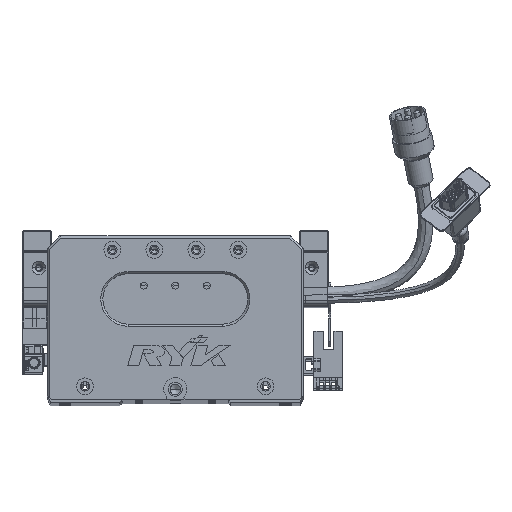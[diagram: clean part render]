
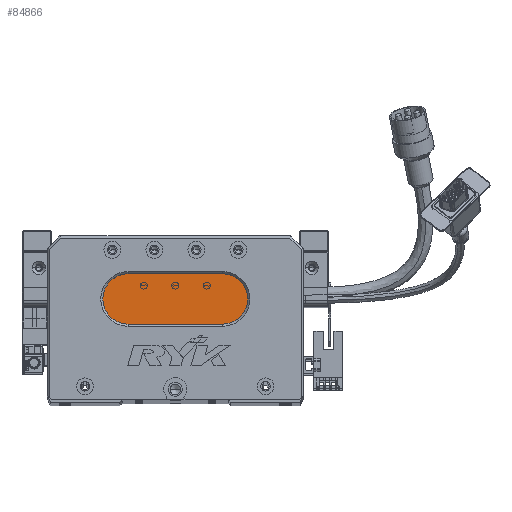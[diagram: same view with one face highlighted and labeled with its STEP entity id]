
A CAD part, top view. The second image highlights one B-rep face of the part: STEP entity #84866.
In plain terms, the highlighted planar face has unit normal (0, 0, 1) as drawn and (0, 0, -1) by its records, which use the part's own axes.
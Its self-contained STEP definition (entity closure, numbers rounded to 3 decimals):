
#913 = FACE_OUTER_BOUND ( 'NONE', #8430, .T. ) ;
#2237 = CARTESIAN_POINT ( 'NONE',  ( 83.5, 36., 13. ) ) ;
#4591 = CARTESIAN_POINT ( 'NONE',  ( 38.5, 60., 13. ) ) ;
#5030 = AXIS2_PLACEMENT_3D ( 'NONE', #63536, #23671, #30633 ) ;
#6092 = CARTESIAN_POINT ( 'NONE',  ( 83.5, 36., 13. ) ) ;
#8430 = EDGE_LOOP ( 'NONE', ( #50993, #60795, #10294, #25460, #28229 ) ) ;
#10294 = ORIENTED_EDGE ( 'NONE', *, *, #46373, .T. ) ;
#15387 = DIRECTION ( 'NONE',  ( -1., 0., 0. ) ) ;
#17614 = CIRCLE ( 'NONE', #22294, 12. ) ;
#18712 = EDGE_CURVE ( 'NONE', #46820, #65804, #17614, .T. ) ;
#19808 = CARTESIAN_POINT ( 'NONE',  ( 38.5, 36., 13. ) ) ;
#20143 = EDGE_CURVE ( 'NONE', #46460, #81279, #27387, .T. ) ;
#22294 = AXIS2_PLACEMENT_3D ( 'NONE', #81318, #28007, #61195 ) ;
#22896 = EDGE_CURVE ( 'NONE', #65804, #46460, #27066, .T. ) ;
#23671 = DIRECTION ( 'NONE',  ( 0., 0., -1. ) ) ;
#24993 = VECTOR ( 'NONE', #81811, 1000. ) ;
#25460 = ORIENTED_EDGE ( 'NONE', *, *, #18712, .T. ) ;
#25668 = CARTESIAN_POINT ( 'NONE',  ( 83.5, 60., 13. ) ) ;
#26784 = AXIS2_PLACEMENT_3D ( 'NONE', #69519, #36569, #15387 ) ;
#27066 = LINE ( 'NONE', #54944, #24993 ) ;
#27387 = CIRCLE ( 'NONE', #33015, 12. ) ;
#28007 = DIRECTION ( 'NONE',  ( 0., 0., -1. ) ) ;
#28229 = ORIENTED_EDGE ( 'NONE', *, *, #22896, .T. ) ;
#30633 = DIRECTION ( 'NONE',  ( -1., 0., 0. ) ) ;
#30946 = EDGE_CURVE ( 'NONE', #81279, #80427, #77458, .T. ) ;
#32836 = DIRECTION ( 'NONE',  ( -1., 0., 0. ) ) ;
#32876 = CARTESIAN_POINT ( 'NONE',  ( 83.5, 48., 13. ) ) ;
#33015 = AXIS2_PLACEMENT_3D ( 'NONE', #32876, #52938, #65224 ) ;
#36569 = DIRECTION ( 'NONE',  ( 0., 0., -1. ) ) ;
#41130 = CIRCLE ( 'NONE', #5030, 12. ) ;
#46373 = EDGE_CURVE ( 'NONE', #80427, #46820, #41130, .T. ) ;
#46460 = VERTEX_POINT ( 'NONE', #25668 ) ;
#46820 = VERTEX_POINT ( 'NONE', #70165 ) ;
#50993 = ORIENTED_EDGE ( 'NONE', *, *, #20143, .T. ) ;
#52938 = DIRECTION ( 'NONE',  ( 0., 0., -1. ) ) ;
#54944 = CARTESIAN_POINT ( 'NONE',  ( 83.5, 60., 13. ) ) ;
#60795 = ORIENTED_EDGE ( 'NONE', *, *, #30946, .T. ) ;
#61195 = DIRECTION ( 'NONE',  ( -1., 0., 0. ) ) ;
#63536 = CARTESIAN_POINT ( 'NONE',  ( 38.5, 48., 13. ) ) ;
#65224 = DIRECTION ( 'NONE',  ( -1., 0., 0. ) ) ;
#65804 = VERTEX_POINT ( 'NONE', #4591 ) ;
#69519 = CARTESIAN_POINT ( 'NONE',  ( 83.5, 48., 13. ) ) ;
#70165 = CARTESIAN_POINT ( 'NONE',  ( 26.5, 48., 13. ) ) ;
#75376 = VECTOR ( 'NONE', #32836, 1000. ) ;
#77458 = LINE ( 'NONE', #6092, #75376 ) ;
#80427 = VERTEX_POINT ( 'NONE', #19808 ) ;
#81279 = VERTEX_POINT ( 'NONE', #2237 ) ;
#81318 = CARTESIAN_POINT ( 'NONE',  ( 38.5, 48., 13. ) ) ;
#81811 = DIRECTION ( 'NONE',  ( 1., 0., 0. ) ) ;
#82340 = PLANE ( 'NONE',  #26784 ) ;
#84866 = ADVANCED_FACE ( 'NONE', ( #913 ), #82340, .T. ) ;
